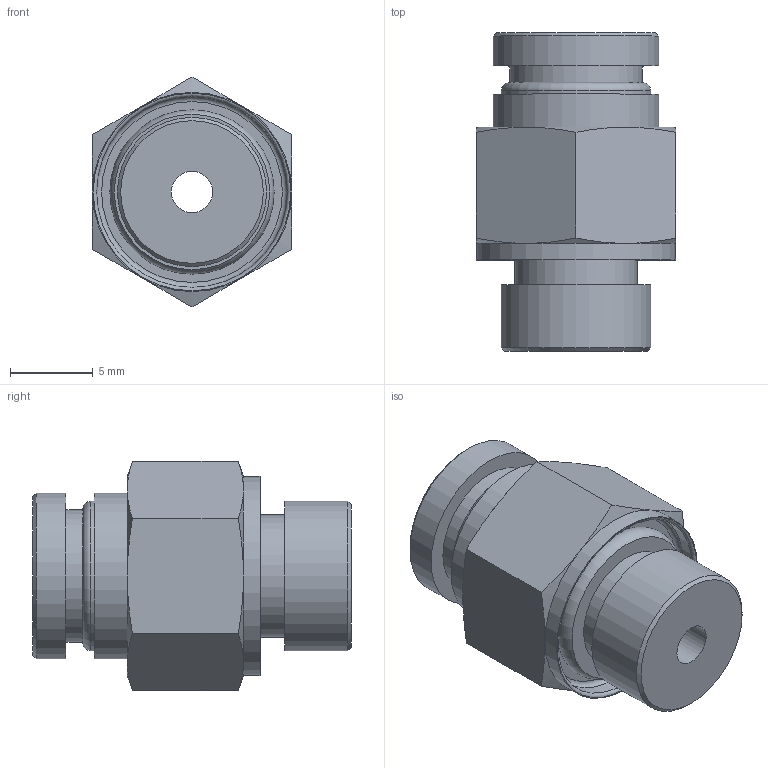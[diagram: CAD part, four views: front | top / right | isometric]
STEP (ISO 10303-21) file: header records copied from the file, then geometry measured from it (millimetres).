
FILE_DESCRIPTION(/* description */ (''),/* implementation_level */ '2;1');
FILE_NAME(/* name */ 'LXH18 0004 B1.stp',/* time_stamp */ '2026-04-20T19:02:32+02:00',/* author */ ('freju'),/* organization */ (''),/* preprocessor_version */ 'ST-DEVELOPER v20.1',/* originating_system */ 'Autodesk Inventor 2026',/* authorisation */ '');
FILE_SCHEMA (('AUTOMOTIVE_DESIGN { 1 0 10303 214 3 1 1 }'));
Length unit declared in the file: millimetre
Products named in the file (4): LXH18 0004 B1; LXH18 0004 B1_1; O-Ring; ISO 3601-1 - A 0063 G
Assembly tree (3 placements, depth 3):
  LXH18 0004 B1
    LXH18 0004 B1_1
    O-Ring
      ISO 3601-1 - A 0063 G
Bounding box: 12 x 19.2 x 13.86 mm (x, y, z)
Volume: 1499.1 mm3; surface area: 1389.5 mm2
Topology: 2 solids, 2 shells, 50 faces, 101 edges, 63 vertices
Faces by surface type: plane 18, cone 14, cylinder 11, torus 7
Full cylindrical faces by diameter (mm): 2.5 x1, 4 x1, 6.3 x1, 7.4 x1, 8 x1, 9 x2, 10 x2, 11.5 x1, 12 x1
Entity records: 1445 total; most frequent: CARTESIAN_POINT 269, DIRECTION 249, ORIENTED_EDGE 202, AXIS2_PLACEMENT_3D 115, EDGE_CURVE 101, VERTEX_POINT 63, EDGE_LOOP 62, CIRCLE 58
